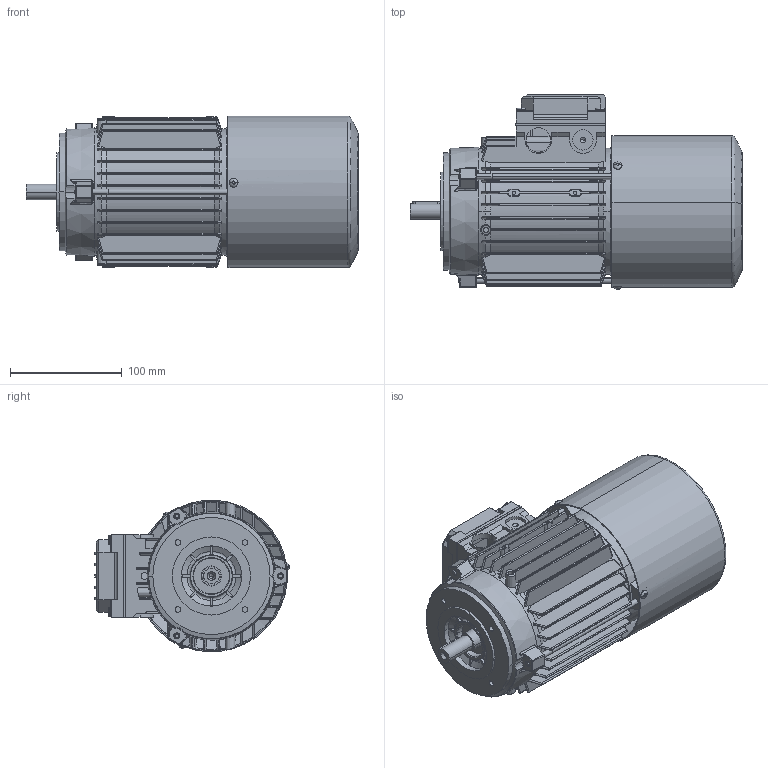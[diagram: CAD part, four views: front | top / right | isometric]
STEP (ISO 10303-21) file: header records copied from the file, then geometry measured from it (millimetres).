
FILE_DESCRIPTION (( 'STEP AP214' ), '1' );
FILE_NAME ('BM 71 B14.STEP', '2018-02-28T09:30:04', ( '' ), ( '' ), 'SwSTEP 2.0', 'SolidWorks 2017', '' );
FILE_SCHEMA (( 'AUTOMOTIVE_DESIGN' ));
Length unit declared in the file: millimetre
Products named in the file (13): Coperchio per Scatola Singola 63-71-80 con viti; Guarnizione Scatola Singola 63-71-80; Vite per coperchio morsettiera; Coperchio per Scatola Singola 63-71-80 - DBAN0095; Vite testa rotonda M3; Scudo a Flangia B14 BA-BM 71 - DBAC0194; Tirante BM 71; Cuffia BM 71 - DBBK0097; Scudo Lato Freno P1 BM 71 NT - DBCK0207; Albero BA 71; Chiavetta 71; Carcassa 71 B5; BM 71 B14
Assembly tree (19 placements, depth 3):
  BM 71 B14
    Carcassa 71 B5
    Chiavetta 71
    Albero BA 71
    Scudo Lato Freno P1 BM 71 NT - DBCK0207
    Cuffia BM 71 - DBBK0097
    Tirante BM 71  x3
    Scudo a Flangia B14 BA-BM 71 - DBAC0194
    Vite testa rotonda M3  x3
    Coperchio per Scatola Singola 63-71-80 con viti
      Coperchio per Scatola Singola 63-71-80 - DBAN0095
      Vite per coperchio morsettiera  x4
      Guarnizione Scatola Singola 63-71-80
Bounding box: 297.5 x 174.18 x 135.81 mm (x, y, z)
Volume: 574010.3 mm3; surface area: 459757.3 mm2
Topology: 21 solids, 21 shells, 2844 faces, 7670 edges, 4803 vertices
Faces by surface type: plane 983, cylinder 971, bspline 372, torus 338, cone 174, sphere 6
Entity records: 93057 total; most frequent: CARTESIAN_POINT 31969, ORIENTED_EDGE 13504, DIRECTION 11562, EDGE_CURVE 6752, AXIS2_PLACEMENT_3D 4335, VERTEX_POINT 4321, LINE 2892, VECTOR 2892
